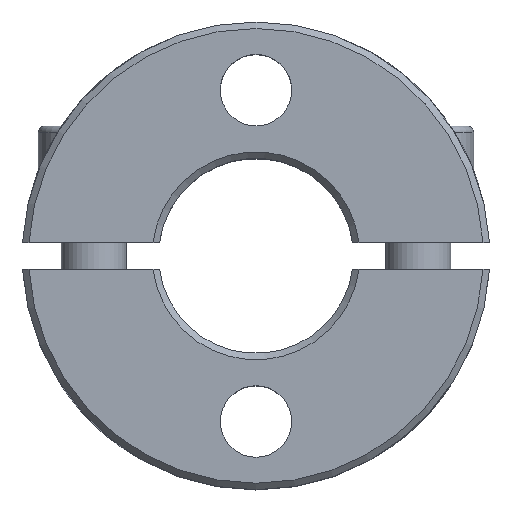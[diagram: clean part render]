
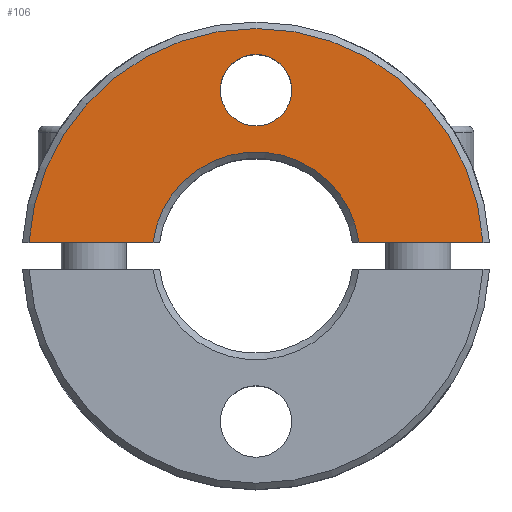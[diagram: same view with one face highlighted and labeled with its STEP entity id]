
A CAD part, top view. The second image highlights one B-rep face of the part: STEP entity #106.
In plain terms, the highlighted planar face has unit normal (0, 0, 1).
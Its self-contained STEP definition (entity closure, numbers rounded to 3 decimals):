
#106 = ADVANCED_FACE( '', ( #215, #216 ), #217, .T. );
#215 = FACE_OUTER_BOUND( '', #365, .T. );
#216 = FACE_BOUND( '', #366, .T. );
#217 = PLANE( '', #367 );
#365 = EDGE_LOOP( '', ( #638, #639, #640, #641 ) );
#366 = EDGE_LOOP( '', ( #642 ) );
#367 = AXIS2_PLACEMENT_3D( '', #643, #644, #645 );
#638 = ORIENTED_EDGE( '', *, *, #865, .F. );
#639 = ORIENTED_EDGE( '', *, *, #904, .T. );
#640 = ORIENTED_EDGE( '', *, *, #899, .F. );
#641 = ORIENTED_EDGE( '', *, *, #854, .F. );
#642 = ORIENTED_EDGE( '', *, *, #894, .T. );
#643 = CARTESIAN_POINT( '', ( 0., 8., 6.5 ) );
#644 = DIRECTION( '', ( 0., 0., 1. ) );
#645 = DIRECTION( '', ( 1., 0., 0. ) );
#854 = EDGE_CURVE( '', #988, #989, #990, .T. );
#865 = EDGE_CURVE( '', #1007, #988, #1009, .T. );
#894 = EDGE_CURVE( '', #1059, #1059, #1060, .F. );
#899 = EDGE_CURVE( '', #989, #1068, #1069, .T. );
#904 = EDGE_CURVE( '', #1007, #1068, #1075, .T. );
#988 = VERTEX_POINT( '', #1404 );
#989 = VERTEX_POINT( '', #1405 );
#990 = CIRCLE( '', #1406, 8. );
#1007 = VERTEX_POINT( '', #1437 );
#1009 = LINE( '', #1442, #1443 );
#1059 = VERTEX_POINT( '', #1563 );
#1060 = CIRCLE( '', #1564, 2.75 );
#1068 = VERTEX_POINT( '', #1573 );
#1069 = LINE( '', #1574, #1575 );
#1075 = CIRCLE( '', #1586, 17.5 );
#1404 = CARTESIAN_POINT( '', ( 7.931, 1.05, 6.5 ) );
#1405 = CARTESIAN_POINT( '', ( -7.931, 1.05, 6.5 ) );
#1406 = AXIS2_PLACEMENT_3D( '', #1716, #1717, #1718 );
#1437 = CARTESIAN_POINT( '', ( 17.468, 1.05, 6.5 ) );
#1442 = CARTESIAN_POINT( '', ( 20., 1.05, 6.5 ) );
#1443 = VECTOR( '', #1730, 1000. );
#1563 = CARTESIAN_POINT( '', ( 2.75, 12.75, 6.5 ) );
#1564 = AXIS2_PLACEMENT_3D( '', #1774, #1775, #1776 );
#1573 = CARTESIAN_POINT( '', ( -17.468, 1.05, 6.5 ) );
#1574 = CARTESIAN_POINT( '', ( 0., 1.05, 6.5 ) );
#1575 = VECTOR( '', #1787, 1000. );
#1586 = AXIS2_PLACEMENT_3D( '', #1793, #1794, #1795 );
#1716 = CARTESIAN_POINT( '', ( 0., 0., 6.5 ) );
#1717 = DIRECTION( '', ( 0., 0., 1. ) );
#1718 = DIRECTION( '', ( 1., 0., 0. ) );
#1730 = DIRECTION( '', ( -1., 0., 0. ) );
#1774 = CARTESIAN_POINT( '', ( 0., 12.75, 6.5 ) );
#1775 = DIRECTION( '', ( 0., 0., 1. ) );
#1776 = DIRECTION( '', ( 1., 0., 0. ) );
#1787 = DIRECTION( '', ( -1., 0., 0. ) );
#1793 = CARTESIAN_POINT( '', ( 0., 0., 6.5 ) );
#1794 = DIRECTION( '', ( 0., 0., 1. ) );
#1795 = DIRECTION( '', ( 1., 0., 0. ) );
